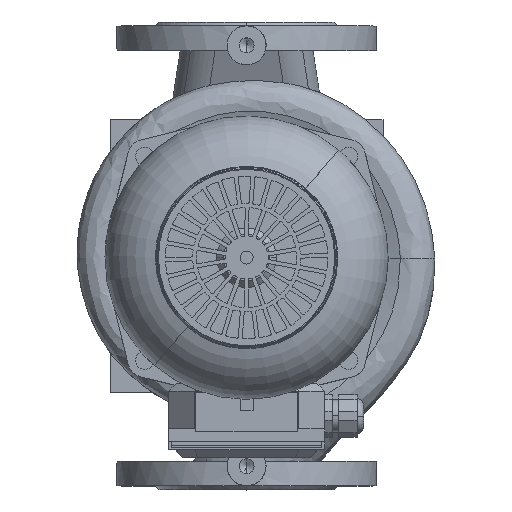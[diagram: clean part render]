
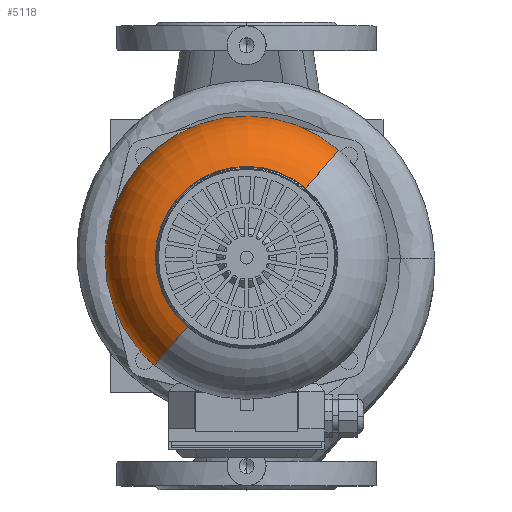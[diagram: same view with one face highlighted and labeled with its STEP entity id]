
A CAD part, top view. The second image highlights one B-rep face of the part: STEP entity #5118.
In plain terms, the highlighted toroidal (fillet/blend) face has major radius 59 mm and minor radius 50 mm.
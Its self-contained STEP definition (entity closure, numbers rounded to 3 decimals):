
#5118=ADVANCED_FACE('NONE',(#12377),#12378,.T.);
#12377=FACE_OUTER_BOUND('',#19269,.T.);
#12378=TOROIDAL_SURFACE('',#19270,59.0,50.0);
#19269=EDGE_LOOP('',(#28271,#28272,#28273,#28274));
#19270=AXIS2_PLACEMENT_3D('',#28275,#28276,#28277);
#28271=ORIENTED_EDGE('',*,*,#37033,.T.);
#28272=ORIENTED_EDGE('',*,*,#37271,.T.);
#28273=ORIENTED_EDGE('',*,*,#37034,.T.);
#28274=ORIENTED_EDGE('',*,*,#37431,.T.);
#28275=CARTESIAN_POINT('',(49.225,0.0,0.0));
#28276=DIRECTION('',(1.0,0.,0.));
#28277=DIRECTION('',(0.,0.,-1.0));
#37033=EDGE_CURVE('',#46285,#46292,#46293,.T.);
#37034=EDGE_CURVE('',#46294,#46289,#46295,.T.);
#37271=EDGE_CURVE('NONE',#46292,#46294,#46756,.T.);
#37431=EDGE_CURVE('NONE',#46289,#46285,#47017,.T.);
#46285=VERTEX_POINT('',#59996);
#46289=VERTEX_POINT('NONE',#60001);
#46292=VERTEX_POINT('NONE',#60005);
#46293=CIRCLE('',#60006,50.0);
#46294=VERTEX_POINT('',#60007);
#46295=CIRCLE('',#60008,50.0);
#46756=CIRCLE('',#60774,70.229);
#47017=CIRCLE('',#61182,109.);
#59996=CARTESIAN_POINT('',(49.225,0.,-109.));
#60001=CARTESIAN_POINT('',(49.225,0.,109.0));
#60005=CARTESIAN_POINT('',(97.948,0.,-70.229));
#60006=AXIS2_PLACEMENT_3D('',#67602,#67603,#67604);
#60007=CARTESIAN_POINT('',(97.948,0.,70.229));
#60008=AXIS2_PLACEMENT_3D('',#67605,#67606,#67607);
#60774=AXIS2_PLACEMENT_3D('',#68069,#68070,#68071);
#61182=AXIS2_PLACEMENT_3D('',#68444,#68445,#68446);
#67602=CARTESIAN_POINT('',(49.225,0.,-59.0));
#67603=DIRECTION('',(0.,-1.0,0.));
#67604=DIRECTION('',(0.,0.,-1.0));
#67605=CARTESIAN_POINT('',(49.225,0.,59.0));
#67606=DIRECTION('',(0.,-1.0,0.));
#67607=DIRECTION('',(0.,0.,1.0));
#68069=CARTESIAN_POINT('',(97.948,0.0,0.0));
#68070=DIRECTION('',(-1.0,0.,0.));
#68071=DIRECTION('',(0.,0.,1.0));
#68444=CARTESIAN_POINT('',(49.225,0.0,0.0));
#68445=DIRECTION('',(1.0,0.,0.));
#68446=DIRECTION('',(0.,0.,-1.0));
